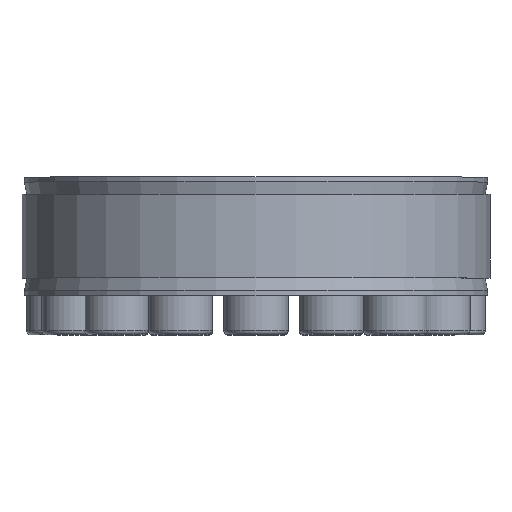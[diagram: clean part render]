
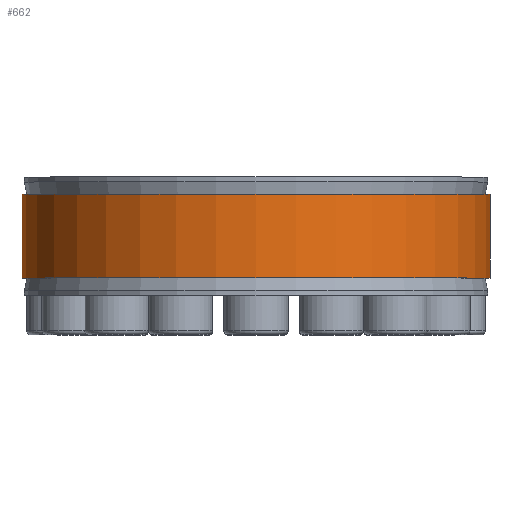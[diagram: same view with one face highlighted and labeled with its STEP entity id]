
A CAD part, top view. The second image highlights one B-rep face of the part: STEP entity #662.
In plain terms, the highlighted cylindrical face has radius 47.5 mm (diameter 95 mm), a partial arc.
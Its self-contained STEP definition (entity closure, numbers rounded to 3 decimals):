
#662 = ADVANCED_FACE( '', ( #1302 ), #1303, .T. );
#1302 = FACE_OUTER_BOUND( '', #2427, .T. );
#1303 = CYLINDRICAL_SURFACE( '', #2428, 47.5 );
#2427 = EDGE_LOOP( '', ( #3640, #3641, #3642, #3643 ) );
#2428 = AXIS2_PLACEMENT_3D( '', #3644, #3645, #3646 );
#3640 = ORIENTED_EDGE( '', *, *, #6217, .F. );
#3641 = ORIENTED_EDGE( '', *, *, #6218, .T. );
#3642 = ORIENTED_EDGE( '', *, *, #6219, .T. );
#3643 = ORIENTED_EDGE( '', *, *, #6220, .F. );
#3644 = CARTESIAN_POINT( '', ( 0., -60., 0. ) );
#3645 = DIRECTION( '', ( 0., -1., 0. ) );
#3646 = DIRECTION( '', ( 0., 0., 1. ) );
#6217 = EDGE_CURVE( '', #6952, #6953, #6954, .F. );
#6218 = EDGE_CURVE( '', #6952, #6955, #6956, .T. );
#6219 = EDGE_CURVE( '', #6955, #6957, #6958, .F. );
#6220 = EDGE_CURVE( '', #6953, #6957, #6959, .T. );
#6952 = VERTEX_POINT( '', #8008 );
#6953 = VERTEX_POINT( '', #8009 );
#6954 = LINE( '', #8010, #8011 );
#6955 = VERTEX_POINT( '', #8012 );
#6956 = CIRCLE( '', #8013, 47.5 );
#6957 = VERTEX_POINT( '', #8014 );
#6958 = LINE( '', #8015, #8016 );
#6959 = CIRCLE( '', #8017, 47.5 );
#8008 = CARTESIAN_POINT( '', ( 0.792, 8.5, -47.493 ) );
#8009 = CARTESIAN_POINT( '', ( 0.792, -8.5, -47.493 ) );
#8010 = CARTESIAN_POINT( '', ( 0.792, -60., -47.493 ) );
#8011 = VECTOR( '', #9961, 1000. );
#8012 = CARTESIAN_POINT( '', ( -0.792, 8.5, -47.493 ) );
#8013 = AXIS2_PLACEMENT_3D( '', #9962, #9963, #9964 );
#8014 = CARTESIAN_POINT( '', ( -0.792, -8.5, -47.493 ) );
#8015 = CARTESIAN_POINT( '', ( -0.792, -60., -47.493 ) );
#8016 = VECTOR( '', #9965, 1000. );
#8017 = AXIS2_PLACEMENT_3D( '', #9966, #9967, #9968 );
#9961 = DIRECTION( '', ( 0., 1., 0. ) );
#9962 = CARTESIAN_POINT( '', ( 0., 8.5, 0. ) );
#9963 = DIRECTION( '', ( 0., -1., 0. ) );
#9964 = DIRECTION( '', ( 0., 0., -1. ) );
#9965 = DIRECTION( '', ( 0., 1., 0. ) );
#9966 = CARTESIAN_POINT( '', ( 0., -8.5, 0. ) );
#9967 = DIRECTION( '', ( 0., -1., 0. ) );
#9968 = DIRECTION( '', ( 0., 0., -1. ) );
